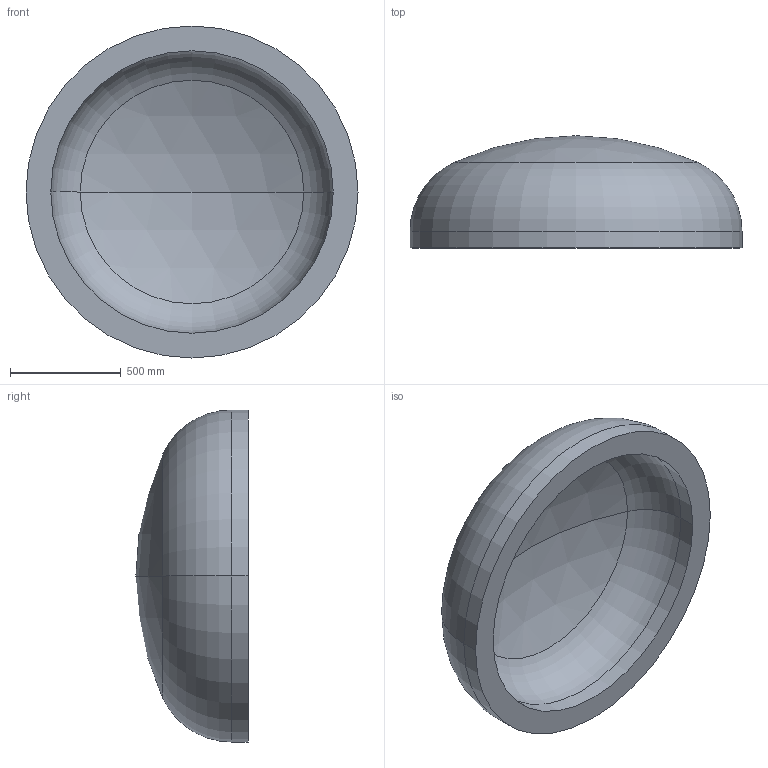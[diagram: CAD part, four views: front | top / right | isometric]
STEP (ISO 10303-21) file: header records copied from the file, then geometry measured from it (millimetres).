
FILE_DESCRIPTION (( 'STEP AP203' ), '1' );
FILE_NAME ('DIN 28013 Korbbogenform_-_Boden DIN 28013 - 1500 x 75 - I - s=112.step', '2016-07-01T11:00:09', ( '' ), ( '' ), 'SwSTEP 2.0', 'SolidWorks 2013', '' );
FILE_SCHEMA (( 'CONFIG_CONTROL_DESIGN' ));
Length unit declared in the file: millimetre
Products named in the file (1): DIN 28013 Korbbogenform_-_Boden DIN 28013 - 1500 x 75 - I - s=112
Bounding box: 1500 x 506.98 x 1500 mm (x, y, z)
Volume: 285902779.3 mm3; surface area: 5620057.2 mm2
Topology: 1 solids, 1 shells, 13 faces, 24 edges, 14 vertices
Faces by surface type: torus 4, cylinder 4, sphere 4, plane 1
Entity records: 407 total; most frequent: DIRECTION 72, CARTESIAN_POINT 52, ORIENTED_EDGE 48, AXIS2_PLACEMENT_3D 34, EDGE_CURVE 24, CIRCLE 20, VERTEX_POINT 14, EDGE_LOOP 14
